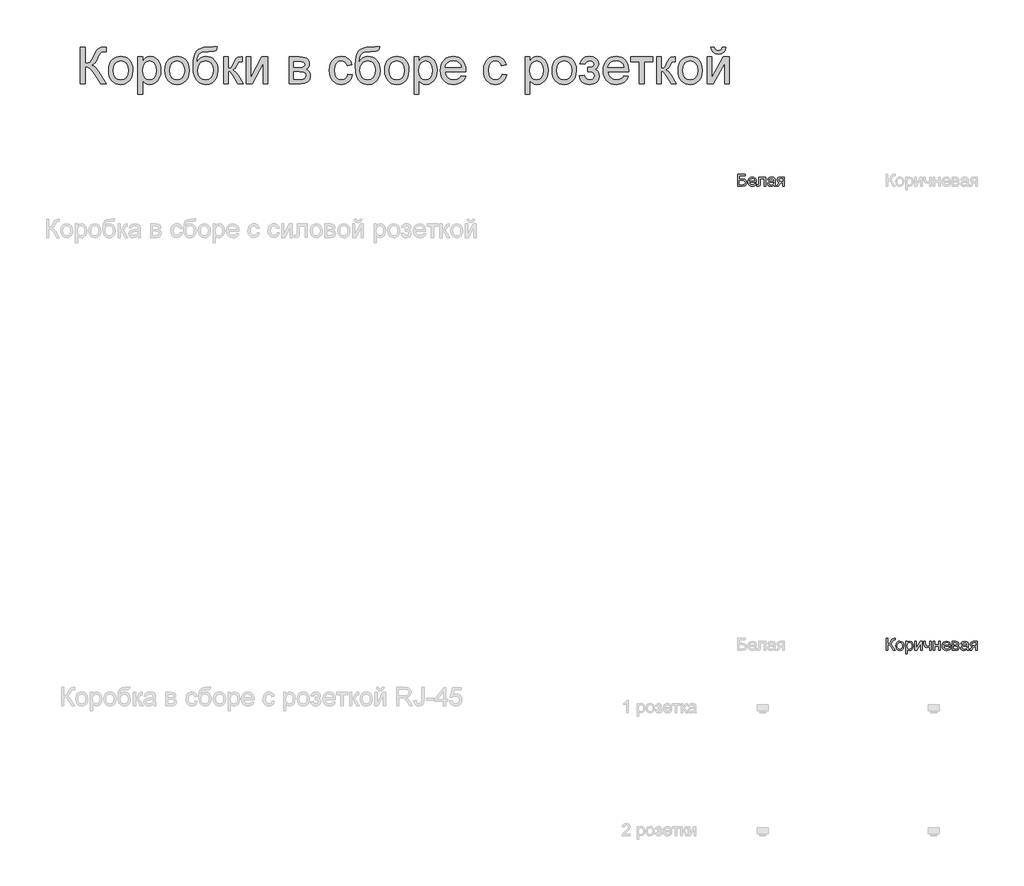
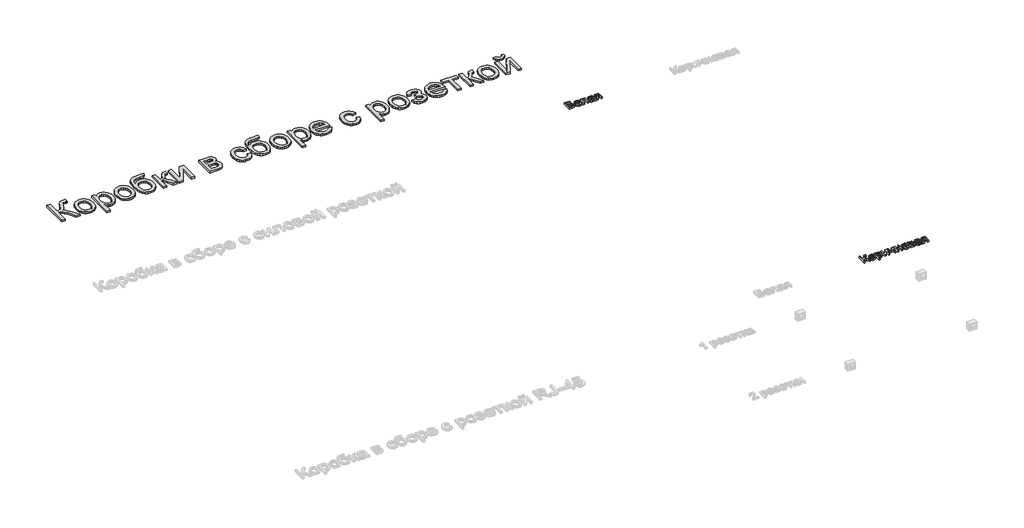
# One storey, part 43 of 48: 3 proxies.
"""IFC4 building model written with IfcOpenShell, lengths in millimetres."""

import ifcopenshell
import ifcopenshell.guid

model = None  # the IFC model being written
_history = None  # IfcOwnerHistory: only IFC2X3 demands one
_inside = {}  # id of a spatial element -> (the spatial element, [elements in it])
_under = {}  # id of a project, library or spatial element -> (it, [spatial elements below it])
_declared = {}  # id of a project -> (the project, [libraries it declares])
_typed = {}  # id of a type object -> (the type object, [elements of that type])
_made_of = {}  # id of a material, layer set ... -> (it, [elements and type objects made of it])


def new_model(schema):
    """Start an empty IFC model of exactly this schema.

    Asked for "IFC4X3", IfcOpenShell would pick the latest addendum, in which some entities
    have other attributes; the version numbers below select the first issue.
    IFC2X3 requires an IfcOwnerHistory on every rooted entity: one is made here for all.
    """
    global model, _history
    if schema == "IFC4X3":
        model = ifcopenshell.file(schema_version=(4, 3, 0, 0))
    else:
        model = ifcopenshell.file(schema=schema)
    _inside.clear()
    _under.clear()
    _declared.clear()
    _typed.clear()
    _made_of.clear()
    _history = None
    if model.schema == "IFC2X3":
        org = make("IfcOrganization", Name="unknown")
        user = make(
            "IfcPersonAndOrganization",
            ThePerson=make("IfcPerson", FamilyName="unknown"),
            TheOrganization=org,
        )
        app = make(
            "IfcApplication",
            ApplicationDeveloper=org,
            Version="unknown",
            ApplicationFullName="unknown",
            ApplicationIdentifier="unknown",
        )
        _history = make(
            "IfcOwnerHistory",
            OwningUser=user,
            OwningApplication=app,
            ChangeAction="ADDED",
            CreationDate=0,
        )
    return model


def make(cls, **values):
    """One entity of the class cls with the attributes given. An attribute that is None is left unset."""
    return model.create_entity(
        cls, **{name: value for name, value in values.items() if value is not None}
    )


def rooted(cls, **values):
    """An entity with a GlobalId (a new one), such as an element, a storey or a relation."""
    return make(cls, GlobalId=ifcopenshell.guid.new(), OwnerHistory=_history, **values)


def si_unit(unit_type, name, prefix=None):
    """IfcSIUnit, for example si_unit("LENGTHUNIT", "METRE", prefix="MILLI")."""
    return make("IfcSIUnit", UnitType=unit_type, Prefix=prefix, Name=name)


def assignment(units):
    """IfcUnitAssignment: the units of a project."""
    return None if units is None else make("IfcUnitAssignment", Units=units)


def point(xyz):
    """IfcCartesianPoint."""
    return None if xyz is None else make("IfcCartesianPoint", Coordinates=xyz)


def direction(xyz):
    """IfcDirection."""
    return None if xyz is None else make("IfcDirection", DirectionRatios=xyz)


def frame(location, z_axis=None, x_axis=None):
    """IfcAxis2Placement3D, a coordinate frame: its origin and axes. An axis left out is left unset."""
    return make(
        "IfcAxis2Placement3D",
        Location=point(location),
        Axis=direction(z_axis),
        RefDirection=direction(x_axis),
    )


def origin():
    """The frame at (0, 0, 0) with its axes left unset."""
    return frame((0.0, 0.0, 0.0))


def origin_with_axes():
    """The frame at (0, 0, 0) with the z axis (0, 0, 1) and the x axis (1, 0, 0) written out."""
    return frame((0.0, 0.0, 0.0), z_axis=(0.0, 0.0, 1.0), x_axis=(1.0, 0.0, 0.0))


def place(relative_to, where):
    """IfcLocalPlacement: puts the frame where relative to a parent placement (None: the world)."""
    return make(
        "IfcLocalPlacement", PlacementRelTo=relative_to, RelativePlacement=where
    )


def context(
    kind, dimensions, precision=None, world=None, true_north=None, identifier=None
):
    """IfcGeometricRepresentationContext, for example the 3D "Model" context."""
    return make(
        "IfcGeometricRepresentationContext",
        ContextIdentifier=identifier,
        ContextType=kind,
        CoordinateSpaceDimension=dimensions,
        Precision=precision,
        WorldCoordinateSystem=world,
        TrueNorth=true_north,
    )


def project(units=None, contexts=None):
    """IfcProject with its units and contexts."""
    return rooted(
        "IfcProject",
        Name="project",
        RepresentationContexts=contexts,
        UnitsInContext=assignment(units),
    )


def spatial(cls, under=None, at=None, **own):
    """A site, building, storey or space (cls), placed at a placement, below another one or the project."""
    s = rooted(cls, ObjectPlacement=at, **own)
    if under is not None:
        _under.setdefault(under.id(), (under, []))[1].append(s)
    return s


def polyline(points):
    """IfcPolyline through the points."""
    return make("IfcPolyline", Points=[point(p) for p in points])


def outline(outer, holes=None, kind="AREA"):
    """IfcArbitraryClosedProfileDef: a profile drawn as a closed curve; with holes, ...WithVoids."""
    if holes is None:
        return make("IfcArbitraryClosedProfileDef", ProfileType=kind, OuterCurve=outer)
    return make(
        "IfcArbitraryProfileDefWithVoids",
        ProfileType=kind,
        OuterCurve=outer,
        InnerCurves=holes,
    )


def extrude(swept, where, along, depth):
    """IfcExtrudedAreaSolid: the profile swept, set in the frame where, extruded along a direction by depth."""
    return make(
        "IfcExtrudedAreaSolid",
        SweptArea=swept,
        Position=where,
        ExtrudedDirection=direction(along),
        Depth=depth,
    )


def shape(context_of_items, identifier, shape_type, items):
    """IfcShapeRepresentation: the items that make up one representation, for example the "Body"."""
    return make(
        "IfcShapeRepresentation",
        ContextOfItems=context_of_items,
        RepresentationIdentifier=identifier,
        RepresentationType=shape_type,
        Items=items,
    )


def made_of(thing, what):
    """Note that an element or type object is made of a material, layer set ...; save() writes the relation."""
    if what is not None:
        _made_of.setdefault(what.id(), (what, []))[1].append(thing)
    return thing


def element(
    cls,
    number,
    at=None,
    inside=None,
    cuts=None,
    type_object=None,
    material=None,
    context=None,
    identifier="Body",
    shape_type=None,
    held_by="IfcProductDefinitionShape",
    body=None,
    shapes=None,
    **own,
):
    """One element of the class cls, such as IfcWall. Its Tag is "e" and its number.

    at: its placement. inside: the storey or other place that contains it. cuts: it is an
    opening in that element (IfcRelVoidsElement). A single representation is given by context,
    identifier, shape_type and body (its items); several are given by shapes. held_by: the class
    of the entity that holds the representations. save() writes the other relations.
    """
    e = rooted(cls, Tag="e%d" % number, ObjectPlacement=at, **own)
    if body is not None:
        shapes = [shape(context, identifier, shape_type, body)]
    if shapes is not None:
        e.Representation = make(held_by, Representations=shapes)
    if inside is not None:
        _inside.setdefault(inside.id(), (inside, []))[1].append(e)
    if cuts is not None:
        rooted(
            "IfcRelVoidsElement", RelatingBuildingElement=cuts, RelatedOpeningElement=e
        )
    if type_object is not None:
        _typed.setdefault(type_object.id(), (type_object, []))[1].append(e)
    return made_of(e, material)


def aggregate(whole, parts):
    """IfcRelAggregates: a whole, such as a stair, and the parts it consists of."""
    return rooted("IfcRelAggregates", RelatingObject=whole, RelatedObjects=parts)


def save(model, path):
    """Write the relations noted so far, then the file.

    IfcRelAggregates (storeys below a building ...), IfcRelContainedInSpatialStructure (elements
    in a storey), IfcRelDefinesByType, IfcRelAssociatesMaterial and IfcRelDeclares: one each for
    every whole, place, type object, material and project.
    """
    for whole, parts in _under.values():
        aggregate(whole, parts)
    for where, things in _inside.values():
        rooted(
            "IfcRelContainedInSpatialStructure",
            RelatedElements=things,
            RelatingStructure=where,
        )
    for kind, things in _typed.values():
        rooted("IfcRelDefinesByType", RelatedObjects=things, RelatingType=kind)
    for what, things in _made_of.values():
        rooted("IfcRelAssociatesMaterial", RelatedObjects=things, RelatingMaterial=what)
    for by, libraries in _declared.values():
        rooted("IfcRelDeclares", RelatingContext=by, RelatedDefinitions=libraries)
    model.write(path)


model = new_model("IFC4")

# Units and contexts
model_context = context("Model", 3, world=origin())
ifc_project = project(units=[si_unit("LENGTHUNIT", "METRE", prefix="MILLI")], contexts=[model_context])

# Site, building, storey
site = spatial("IfcSite", under=ifc_project)
building = spatial("IfcBuilding", under=site)
storey = spatial("IfcBuildingStorey", under=building, Name="Этаж 01", Elevation=0.0)

# Proxies
placement = place(None, origin())
element("IfcBuildingElementProxy", 1, Name="300 мм Arial", ObjectType="300 мм Arial", at=placement, inside=storey, context=model_context, shape_type="SweptSolid", body=[
    extrude(outline(polyline([(54142.508105, 5511.0592945), (54180.1792213, 5511.0592945), (54180.1792213, 5379.2103874), (54205.6826406, 5381.7027879), (54222.3017098, 5389.1799894), (54235.7385996, 5406.7739459), (54251.6954812, 5439.616611), (54272.4808139, 5481.7390994), (54282.5055983, 5493.1526383), (54296.0252616, 5502.5980086), (54312.0741136, 5508.943973), (54329.6864642, 5511.0592945), (54354.4081342, 5510.6178361), (54354.4081342, 5472.9467198), (54346.0940011, 5473.1674489), (54337.7798681, 5473.3881781), (54320.5262025, 5471.1257039), (54308.3493084, 5464.3382811), (54297.8646716, 5450.0828538), (54285.9820831, 5425.5635188), (54271.4047591, 5395.0293132), (54259.3106385, 5378.3274706), (54233.3013814, 5362.729274), (54247.8925011, 5356.5212653), (54262.3824531, 5345.6963376), (54291.0588547, 5310.1957251), (54354.4081342, 5209.690364), (54310.7037532, 5209.690364), (54257.1401347, 5294.5975285), (54236.4559695, 5321.8299932), (54219.4322302, 5338.9273089), (54202.0222148, 5347.9496148), (54180.1792213, 5350.9570502), (54180.1792213, 5209.690364), (54142.508105, 5209.690364), (54142.508105, 5511.0592945)])), origin_with_axes(), (0.0, 0.0, 1.0), 20.0),
    extrude(outline(polyline([(54373.2436924, 5320.3492682), (54375.2808389, 5349.0118741), (54381.3922786, 5373.7105516), (54391.5780113, 5394.4453005), (54405.8380372, 5411.216121), (54420.194632, 5421.9352826), (54436.041149, 5429.5918266), (54453.377588, 5434.185753), (54472.2039491, 5435.7170618), (54492.9869826, 5433.85236), (54511.7788547, 5428.2582544), (54528.5795656, 5418.9347451), (54543.3891152, 5405.881832), (54555.476338, 5389.5409737), (54564.1100685, 5370.3536283), (54569.2903069, 5348.3197961), (54571.017053, 5323.4394769), (54567.9636324, 5285.3820845), (54558.8033708, 5256.4113774), (54543.8029824, 5234.7155367), (54523.2291818, 5218.4827437), (54498.7926203, 5208.3567918), (54472.2039491, 5204.9814745), (54451.117413, 5206.8392785), (54432.1507969, 5212.4126908), (54415.3041007, 5221.7017111), (54400.5773246, 5234.7063397), (54388.6188605, 5251.2058472), (54380.0771004, 5270.9795044), (54374.9520444, 5294.0273114), (54373.2436924, 5320.3492682)]), holes=[polyline([(54410.9148087, 5320.4228446), (54415.2742103, 5286.3293806), (54428.3524153, 5262.0399719), (54448.034102, 5247.4994361), (54472.2039491, 5242.6525908), (54496.2634316, 5247.5270272), (54515.9083301, 5262.1503365), (54528.986535, 5286.761642), (54533.3459367, 5321.6000669), (54528.9589439, 5354.7002495), (54515.7979655, 5378.6585644), (54496.1254758, 5393.1991002), (54472.2039491, 5398.0459455), (54448.034102, 5393.2174943), (54428.3524153, 5378.7321408), (54415.2742103, 5354.4979144), (54410.9148087, 5320.4228446)])]), origin_with_axes(), (0.0, 0.0, 1.0), 20.0),
    extrude(outline(polyline([(54613.3970588, 5124.9303523), (54613.3970588, 5431.0081723), (54651.0681751, 5431.0081723), (54651.0681751, 5394.07282), (54663.3554338, 5412.2921758), (54677.1142204, 5425.3060014), (54693.1538754, 5433.1142967), (54712.2837391, 5435.7170618), (54737.7595673, 5432.0750301), (54760.0348221, 5421.1489348), (54778.1714045, 5403.6009637), (54791.2312153, 5380.0933042), (54799.1222841, 5352.3366076), (54801.7526404, 5322.0415253), (54798.7819933, 5289.8242596), (54789.8700519, 5261.0099023), (54775.3019249, 5237.0607844), (54755.3627208, 5219.4392369), (54732.1401698, 5208.5959151), (54707.7220024, 5204.9814745), (54690.4039575, 5207.4002986), (54674.9437166, 5214.6567709), (54661.7091619, 5225.6104573), (54651.0681751, 5239.1209236), (54651.0681751, 5124.9303523), (54613.3970588, 5124.9303523)]), holes=[polyline([(54651.0681751, 5318.5834346), (54655.1424682, 5284.8118674), (54667.3653475, 5261.1938433), (54685.4007623, 5247.2879039), (54706.912662, 5242.6525908), (54728.7740496, 5247.4534508), (54747.2693169, 5261.8560309), (54759.8784723, 5286.3385777), (54764.0815241, 5321.3793377), (54759.9796398, 5354.9669639), (54747.6739871, 5378.9160818), (54729.6661634, 5393.2634796), (54708.4577664, 5398.0459455), (54687.1665959, 5392.959977), (54668.4689935, 5377.7020712), (54655.4183797, 5352.7504749), (54651.0681751, 5318.5834346)])]), origin_with_axes(), (0.0, 0.0, 1.0), 20.0),
    extrude(outline(polyline([(54834.7148671, 5320.3492682), (54836.7520137, 5349.0118741), (54842.8634533, 5373.7105516), (54853.0491861, 5394.4453005), (54867.3092119, 5411.216121), (54881.6658068, 5421.9352826), (54897.5123237, 5429.5918266), (54914.8487627, 5434.185753), (54933.6751238, 5435.7170618), (54954.4581573, 5433.85236), (54973.2500295, 5428.2582544), (54990.0507403, 5418.9347451), (55004.8602899, 5405.881832), (55016.9475127, 5389.5409737), (55025.5812433, 5370.3536283), (55030.7614816, 5348.3197961), (55032.4882277, 5323.4394769), (55029.4348072, 5285.3820845), (55020.2745455, 5256.4113774), (55005.2741572, 5234.7155367), (54984.7003566, 5218.4827437), (54960.263795, 5208.3567918), (54933.6751238, 5204.9814745), (54912.5885877, 5206.8392785), (54893.6219716, 5212.4126908), (54876.7752755, 5221.7017111), (54862.0484994, 5234.7063397), (54850.0900353, 5251.2058472), (54841.5482752, 5270.9795044), (54836.4232192, 5294.0273114), (54834.7148671, 5320.3492682)]), holes=[polyline([(54872.3859834, 5320.4228446), (54876.7453851, 5286.3293806), (54889.82359, 5262.0399719), (54909.5052768, 5247.4994361), (54933.6751238, 5242.6525908), (54957.7346063, 5247.5270272), (54977.3795049, 5262.1503365), (54990.4577098, 5286.761642), (54994.8171114, 5321.6000669), (54990.4301186, 5354.7002495), (54977.2691403, 5378.6585644), (54957.5966506, 5393.1991002), (54933.6751238, 5398.0459455), (54909.5052768, 5393.2174943), (54889.82359, 5378.7321408), (54876.7453851, 5354.4979144), (54872.3859834, 5320.4228446)])]), origin_with_axes(), (0.0, 0.0, 1.0), 20.0),
    extrude(outline(polyline([(55230.2615884, 5515.768184), (55263.2238151, 5515.768184), (55259.6553598, 5497.8615279), (55253.5117304, 5486.3744126), (55244.9952623, 5479.5777927), (55234.3082903, 5475.7426229), (55188.1758881, 5473.3881781), (55149.8701754, 5471.2176744), (55126.0406191, 5464.7061631), (55111.7851918, 5453.4121858), (55102.2018658, 5436.8942842), (55096.5640743, 5415.0236996), (55094.1452501, 5387.6716733), (55109.2927913, 5408.7145234), (55126.7763831, 5423.7241088), (55146.6144197, 5432.7188236), (55168.8252952, 5435.7170618), (55189.348512, 5433.8109733), (55208.0231217, 5428.0927075), (55224.8491245, 5418.5622646), (55239.8265202, 5405.2196444), (55252.1229759, 5388.6258672), (55260.9061586, 5369.3419529), (55266.1760681, 5347.3679014), (55267.9327047, 5322.7037129), (55264.4470228, 5286.7432479), (55253.989977, 5257.8829054), (55238.7504654, 5235.4513007), (55220.9173857, 5218.7770493), (55198.3294312, 5208.4303682), (55168.8252952, 5204.9814745), (55134.8238018, 5209.4236496), (55109.3387765, 5222.7501748), (55090.5859918, 5243.0020787), (55076.78122, 5268.2203894), (55068.2831459, 5306.1950084), (55065.4504545, 5364.7158368), (55067.2369815, 5404.3804136), (55072.5965623, 5436.9954518), (55081.529197, 5462.5609512), (55094.0348855, 5481.0769118), (55110.2469852, 5494.1942042), (55130.2988532, 5503.5636988), (55154.1904895, 5509.1853955), (55181.9218942, 5511.0592945), (55223.8604416, 5511.905423), (55230.2615884, 5515.768184)]), holes=[polyline([(55230.2615884, 5323.8809353), (55226.1780982, 5353.5230271), (55213.9276278, 5377.2606128), (55194.245941, 5392.8496124), (55167.868802, 5398.0459455), (55140.3696228, 5392.5553068), (55129.2825792, 5385.6920083), (55119.9705662, 5376.0833904), (55107.3338197, 5350.4328183), (55103.1215708, 5317.4062122), (55107.7752781, 5285.3912816), (55121.7363998, 5261.8928191), (55142.5217325, 5247.4626479), (55167.6480728, 5242.6525908), (55192.9031717, 5248.2168059), (55212.8975582, 5264.9094515), (55225.9205808, 5290.7807528), (55230.2615884, 5323.8809353)])]), origin_with_axes(), (0.0, 0.0, 1.0), 20.0),
    extrude(outline(polyline([(55315.0216, 5431.0081723), (55352.6927163, 5431.0081723), (55352.6927163, 5336.8303815), (55368.0150014, 5338.5226387), (55377.9294212, 5343.5994102), (55386.7034068, 5356.8431621), (55398.6043893, 5383.0363601), (55415.7844785, 5417.0654447), (55430.9412167, 5428.1386927), (55458.4955782, 5431.0081723), (55465.7060653, 5431.0081723), (55465.7060653, 5393.1163268), (55455.5525222, 5393.337056), (55437.1584224, 5389.3639304), (55424.2089762, 5364.568684), (55409.0154498, 5337.7500865), (55387.7150823, 5324.6166993), (55399.652853, 5319.3146), (55411.4802592, 5309.9566018), (55434.8039777, 5279.0729083), (55475.1238443, 5209.690364), (55432.3023801, 5209.690364), (55392.7918538, 5277.6013803), (55372.9262261, 5306.3329641), (55363.6372057, 5311.5476914), (55352.6927163, 5313.2859338), (55352.6927163, 5209.690364), (55315.0216, 5209.690364), (55315.0216, 5431.0081723)])), origin_with_axes(), (0.0, 0.0, 1.0), 20.0),
    extrude(outline(polyline([(55498.668292, 5431.0081723), (55536.3394083, 5431.0081723), (55536.3394083, 5262.2239129), (55628.8985183, 5431.0081723), (55677.6060945, 5431.0081723), (55677.6060945, 5209.690364), (55639.9349782, 5209.690364), (55639.9349782, 5377.4445538), (55547.9644794, 5209.690364), (55498.668292, 5209.690364), (55498.668292, 5431.0081723)])), origin_with_axes(), (0.0, 0.0, 1.0), 20.0),
    extrude(outline(polyline([(55851.8350074, 5431.0081723), (55934.8291855, 5431.0081723), (55961.5098272, 5429.7481765), (55980.3361883, 5425.968189), (55994.1869454, 5418.8312783), (56005.9407752, 5407.5005128), (56013.9697997, 5392.7392478), (56016.6461412, 5375.3108382), (56015.0274605, 5361.2669431), (56010.1714181, 5349.1544284), (56002.0596201, 5338.9181119), (55990.6736724, 5330.5028112), (56004.6164, 5322.6761218), (56015.9839537, 5310.0853605), (56023.5439287, 5293.7238088), (56026.0639203, 5274.584748), (56019.6811677, 5245.8715582), (56004.5060354, 5225.6564426), (55980.4833411, 5213.6818837), (55947.5579025, 5209.690364), (55851.8350074, 5209.690364), (55851.8350074, 5431.0081723)]), holes=[polyline([(55889.5061237, 5346.2481606), (55926.7357816, 5346.2481606), (55957.4539282, 5348.161147), (55972.3899372, 5355.8130925), (55977.328753, 5362.1406628), (55978.9750249, 5369.6454555), (55976.0871513, 5380.8842505), (55967.4235303, 5388.1131317), (55951.7701514, 5392.0310749), (55927.913004, 5393.337056), (55889.5061237, 5393.337056), (55889.5061237, 5346.2481606)]), polyline([(55889.5061237, 5247.3614803), (55935.7121023, 5247.3614803), (55960.8936249, 5249.0629345), (55976.6941566, 5254.1672972), (55985.1738366, 5263.4471205), (55988.392804, 5277.6749567), (55986.7833203, 5287.1019328), (55981.9548691, 5295.8115391), (55974.5420469, 5302.626553), (55965.1794501, 5306.3697523), (55932.0332824, 5308.5770443), (55889.5061237, 5308.5770443), (55889.5061237, 5247.3614803)])]), origin_with_axes(), (0.0, 0.0, 1.0), 20.0),
    extrude(outline(polyline([(56332.1417403, 5289.7414862), (56369.8128566, 5285.0325966), (56359.3098257, 5251.5277439), (56339.5729566, 5226.2082656), (56312.4600536, 5210.2881722), (56279.8289206, 5204.9814745), (56258.7009978, 5206.8323808), (56239.7573743, 5212.3850996), (56222.9980501, 5221.6396311), (56208.4230253, 5234.5959751), (56196.6255096, 5251.0104098), (56188.1987126, 5270.6392136), (56183.1426345, 5293.4823862), (56181.4572751, 5319.5399278), (56184.3359517, 5353.0631746), (56192.9719815, 5382.1166551), (56207.5033203, 5405.5783294), (56228.0679239, 5422.3261572), (56252.6700323, 5432.3693357), (56279.3138858, 5435.7170618), (56311.1448754, 5431.1185369), (56336.5931124, 5417.3229621), (56354.8492565, 5395.0661014), (56365.1039671, 5365.0837188), (56327.4328508, 5360.3748292), (56320.5994427, 5376.8099574), (56309.958456, 5388.5913783), (56296.0985018, 5395.6823037), (56279.6081914, 5398.0459455), (56255.2636004, 5393.3922383), (56235.9405986, 5379.4311166), (56223.3314432, 5355.4084223), (56219.1283914, 5320.5699973), (56223.2394727, 5285.2625229), (56235.5727166, 5261.1570551), (56254.5462305, 5247.2787069), (56278.5781218, 5242.6525908), (56298.0850646, 5245.5404644), (56314.0787343, 5254.2040854), (56325.7130024, 5268.8641829), (56332.1417403, 5289.7414862)])), origin_with_axes(), (0.0, 0.0, 1.0), 20.0),
    extrude(outline(polyline([(56558.1684381, 5515.768184), (56591.1306649, 5515.768184), (56587.5622096, 5497.8615279), (56581.4185802, 5486.3744126), (56572.902112, 5479.5777927), (56562.2151401, 5475.7426229), (56516.0827379, 5473.3881781), (56477.7770251, 5471.2176744), (56453.9474689, 5464.7061631), (56439.6920416, 5453.4121858), (56430.1087156, 5436.8942842), (56424.470924, 5415.0236996), (56422.0520999, 5387.6716733), (56437.1996411, 5408.7145234), (56454.6832329, 5423.7241088), (56474.5212695, 5432.7188236), (56496.7321449, 5435.7170618), (56517.2553618, 5433.8109733), (56535.9299715, 5428.0927075), (56552.7559743, 5418.5622646), (56567.73337, 5405.2196444), (56580.0298257, 5388.6258672), (56588.8130083, 5369.3419529), (56594.0829179, 5347.3679014), (56595.8395544, 5322.7037129), (56592.3538725, 5286.7432479), (56581.8968268, 5257.8829054), (56566.6573152, 5235.4513007), (56548.8242355, 5218.7770493), (56526.236281, 5208.4303682), (56496.7321449, 5204.9814745), (56462.7306515, 5209.4236496), (56437.2456263, 5222.7501748), (56418.4928416, 5243.0020787), (56404.6880698, 5268.2203894), (56396.1899957, 5306.1950084), (56393.3573043, 5364.7158368), (56395.1438312, 5404.3804136), (56400.5034121, 5436.9954518), (56409.4360468, 5462.5609512), (56421.9417353, 5481.0769118), (56438.153835, 5494.1942042), (56458.205703, 5503.5636988), (56482.0973393, 5509.1853955), (56509.828744, 5511.0592945), (56551.7672914, 5511.905423), (56558.1684381, 5515.768184)]), holes=[polyline([(56558.1684381, 5323.8809353), (56554.084948, 5353.5230271), (56541.8344776, 5377.2606128), (56522.1527908, 5392.8496124), (56495.7756518, 5398.0459455), (56468.2764726, 5392.5553068), (56457.189429, 5385.6920083), (56447.877416, 5376.0833904), (56435.2406695, 5350.4328183), (56431.0284206, 5317.4062122), (56435.6821278, 5285.3912816), (56449.6432496, 5261.8928191), (56470.4285823, 5247.4626479), (56495.5549226, 5242.6525908), (56520.8100215, 5248.2168059), (56540.804408, 5264.9094515), (56553.8274306, 5290.7807528), (56558.1684381, 5323.8809353)])]), origin_with_axes(), (0.0, 0.0, 1.0), 20.0),
    extrude(outline(polyline([(56633.5106708, 5320.3492682), (56635.5478173, 5349.0118741), (56641.6592569, 5373.7105516), (56651.8449897, 5394.4453005), (56666.1050155, 5411.216121), (56680.4616104, 5421.9352826), (56696.3081273, 5429.5918266), (56713.6445664, 5434.185753), (56732.4709275, 5435.7170618), (56753.2539609, 5433.85236), (56772.0458331, 5428.2582544), (56788.846544, 5418.9347451), (56803.6560935, 5405.881832), (56815.7433163, 5389.5409737), (56824.3770469, 5370.3536283), (56829.5572852, 5348.3197961), (56831.2840314, 5323.4394769), (56828.2306108, 5285.3820845), (56819.0703491, 5256.4113774), (56804.0699608, 5234.7155367), (56783.4961602, 5218.4827437), (56759.0595987, 5208.3567918), (56732.4709275, 5204.9814745), (56711.3843913, 5206.8392785), (56692.4177752, 5212.4126908), (56675.5710791, 5221.7017111), (56660.844303, 5234.7063397), (56648.8858389, 5251.2058472), (56640.3440788, 5270.9795044), (56635.2190228, 5294.0273114), (56633.5106708, 5320.3492682)]), holes=[polyline([(56671.1817871, 5320.4228446), (56675.5411887, 5286.3293806), (56688.6193936, 5262.0399719), (56708.3010804, 5247.4994361), (56732.4709275, 5242.6525908), (56756.5304099, 5247.5270272), (56776.1753085, 5262.1503365), (56789.2535134, 5286.761642), (56793.6129151, 5321.6000669), (56789.2259223, 5354.7002495), (56776.0649439, 5378.6585644), (56756.3924542, 5393.1991002), (56732.4709275, 5398.0459455), (56708.3010804, 5393.2174943), (56688.6193936, 5378.7321408), (56675.5411887, 5354.4979144), (56671.1817871, 5320.4228446)])]), origin_with_axes(), (0.0, 0.0, 1.0), 20.0),
    extrude(outline(polyline([(56873.6640372, 5124.9303523), (56873.6640372, 5431.0081723), (56911.3351535, 5431.0081723), (56911.3351535, 5394.07282), (56923.6224122, 5412.2921758), (56937.3811988, 5425.3060014), (56953.4208538, 5433.1142967), (56972.5507175, 5435.7170618), (56998.0265457, 5432.0750301), (57020.3018005, 5421.1489348), (57038.4383828, 5403.6009637), (57051.4981937, 5380.0933042), (57059.3892625, 5352.3366076), (57062.0196187, 5322.0415253), (57059.0489716, 5289.8242596), (57050.1370303, 5261.0099023), (57035.5689033, 5237.0607844), (57015.6296991, 5219.4392369), (56992.4071482, 5208.5959151), (56967.9889808, 5204.9814745), (56950.6709358, 5207.4002986), (56935.210695, 5214.6567709), (56921.9761402, 5225.6104573), (56911.3351535, 5239.1209236), (56911.3351535, 5124.9303523), (56873.6640372, 5124.9303523)]), holes=[polyline([(56911.3351535, 5318.5834346), (56915.4094466, 5284.8118674), (56927.6323259, 5261.1938433), (56945.6677407, 5247.2879039), (56967.1796404, 5242.6525908), (56989.0410279, 5247.4534508), (57007.5362953, 5261.8560309), (57020.1454506, 5286.3385777), (57024.3485024, 5321.3793377), (57020.2466182, 5354.9669639), (57007.9409654, 5378.9160818), (56989.9331418, 5393.2634796), (56968.7247448, 5398.0459455), (56947.4335743, 5392.959977), (56928.7359719, 5377.7020712), (56915.6853581, 5352.7504749), (56911.3351535, 5318.5834346)])]), origin_with_axes(), (0.0, 0.0, 1.0), 20.0),
    extrude(outline(polyline([(57259.3515209, 5275.6148175), (57296.2868733, 5270.905928), (57282.9787421, 5243.0756551), (57261.7427539, 5222.2719282), (57233.0571553, 5209.3040879), (57197.400193, 5204.9814745), (57174.0258907, 5206.8461763), (57153.1991712, 5212.4402819), (57134.9200346, 5221.7637912), (57119.1884808, 5234.8167043), (57106.5379387, 5251.2357376), (57097.5018372, 5270.6576077), (57092.0801763, 5293.0823145), (57090.272956, 5318.5098582), (57092.0985704, 5344.7996253), (57097.5754136, 5367.9715924), (57106.7034856, 5388.0257597), (57119.4827864, 5404.962127), (57135.1729535, 5418.417411), (57153.0336243, 5428.0283281), (57173.064799, 5433.7948784), (57195.2664774, 5435.7170618), (57216.7530852, 5433.7994769), (57236.1841523, 5428.0467222), (57253.5596788, 5418.4587977), (57268.8796646, 5405.0357034), (57281.3853532, 5388.1361243), (57290.3179879, 5368.1187452), (57295.6775687, 5344.9835663), (57297.4640957, 5318.7305874), (57297.2433665, 5308.5770443), (57127.9440723, 5308.5770443), (57134.4647806, 5280.3788894), (57149.6123218, 5259.6487389), (57171.4737094, 5246.9016278), (57198.135957, 5242.6525908), (57218.1855257, 5244.6207594), (57235.0713093, 5250.5252655), (57248.7933077, 5260.7339908), (57259.3515209, 5275.6148175)]), holes=[polyline([(57127.9440723, 5346.2481606), (57259.7929793, 5346.2481606), (57254.6978137, 5366.1505766), (57244.7098175, 5380.3876098), (57222.7472624, 5393.6313616), (57195.1193246, 5398.0459455), (57169.7262699, 5394.5234754), (57148.729405, 5383.9560651), (57134.1336868, 5367.4841488), (57127.9440723, 5346.2481606)])]), origin_with_axes(), (0.0, 0.0, 1.0), 20.0),
    extrude(outline(polyline([(57594.1241366, 5289.7414862), (57631.7952529, 5285.0325966), (57621.2922219, 5251.5277439), (57601.5553529, 5226.2082656), (57574.4424498, 5210.2881722), (57541.8113168, 5204.9814745), (57520.683394, 5206.8323808), (57501.7397705, 5212.3850996), (57484.9804464, 5221.6396311), (57470.4054216, 5234.5959751), (57458.6079058, 5251.0104098), (57450.1811089, 5270.6392136), (57445.1250307, 5293.4823862), (57443.4396713, 5319.5399278), (57446.3183479, 5353.0631746), (57454.9543778, 5382.1166551), (57469.4857166, 5405.5783294), (57490.0503201, 5422.3261572), (57514.6524286, 5432.3693357), (57541.2962821, 5435.7170618), (57573.1272717, 5431.1185369), (57598.5755087, 5417.3229621), (57616.8316527, 5395.0661014), (57627.0863633, 5365.0837188), (57589.415247, 5360.3748292), (57582.581839, 5376.8099574), (57571.9408523, 5388.5913783), (57558.0808981, 5395.6823037), (57541.5905876, 5398.0459455), (57517.2459966, 5393.3922383), (57497.9229948, 5379.4311166), (57485.3138394, 5355.4084223), (57481.1107876, 5320.5699973), (57485.2218689, 5285.2625229), (57497.5551128, 5261.1570551), (57516.5286267, 5247.2787069), (57540.5605181, 5242.6525908), (57560.0674609, 5245.5404644), (57576.0611306, 5254.2040854), (57587.6953987, 5268.8641829), (57594.1241366, 5289.7414862)])), origin_with_axes(), (0.0, 0.0, 1.0), 20.0),
    extrude(outline(polyline([(57782.4797181, 5124.9303523), (57782.4797181, 5431.0081723), (57820.1508344, 5431.0081723), (57820.1508344, 5394.07282), (57832.438093, 5412.2921758), (57846.1968797, 5425.3060014), (57862.2365346, 5433.1142967), (57881.3663984, 5435.7170618), (57906.8422266, 5432.0750301), (57929.1174814, 5421.1489348), (57947.2540637, 5403.6009637), (57960.3138746, 5380.0933042), (57968.2049434, 5352.3366076), (57970.8352996, 5322.0415253), (57967.8646525, 5289.8242596), (57958.9527112, 5261.0099023), (57944.3845842, 5237.0607844), (57924.44538, 5219.4392369), (57901.2228291, 5208.5959151), (57876.8046617, 5204.9814745), (57859.4866167, 5207.4002986), (57844.0263759, 5214.6567709), (57830.7918211, 5225.6104573), (57820.1508344, 5239.1209236), (57820.1508344, 5124.9303523), (57782.4797181, 5124.9303523)]), holes=[polyline([(57820.1508344, 5318.5834346), (57824.2251275, 5284.8118674), (57836.4480068, 5261.1938433), (57854.4834216, 5247.2879039), (57875.9953213, 5242.6525908), (57897.8567088, 5247.4534508), (57916.3519761, 5261.8560309), (57928.9611315, 5286.3385777), (57933.1641833, 5321.3793377), (57929.0622991, 5354.9669639), (57916.7566463, 5378.9160818), (57898.7488227, 5393.2634796), (57877.5404256, 5398.0459455), (57856.2492552, 5392.959977), (57837.5516528, 5377.7020712), (57824.501039, 5352.7504749), (57820.1508344, 5318.5834346)])]), origin_with_axes(), (0.0, 0.0, 1.0), 20.0),
    extrude(outline(polyline([(58003.7975264, 5320.3492682), (58005.8346729, 5349.0118741), (58011.9461126, 5373.7105516), (58022.1318453, 5394.4453005), (58036.3918712, 5411.216121), (58050.748466, 5421.9352826), (58066.594983, 5429.5918266), (58083.931422, 5434.185753), (58102.7577831, 5435.7170618), (58123.5408166, 5433.85236), (58142.3326887, 5428.2582544), (58159.1333996, 5418.9347451), (58173.9429492, 5405.881832), (58186.030172, 5389.5409737), (58194.6639025, 5370.3536283), (58199.8441409, 5348.3197961), (58201.570887, 5323.4394769), (58198.5174664, 5285.3820845), (58189.3572048, 5256.4113774), (58174.3568164, 5234.7155367), (58153.7830158, 5218.4827437), (58129.3464543, 5208.3567918), (58102.7577831, 5204.9814745), (58081.671247, 5206.8392785), (58062.7046309, 5212.4126908), (58045.8579348, 5221.7017111), (58031.1311586, 5234.7063397), (58019.1726945, 5251.2058472), (58010.6309344, 5270.9795044), (58005.5058784, 5294.0273114), (58003.7975264, 5320.3492682)]), holes=[polyline([(58041.4686427, 5320.4228446), (58045.8280443, 5286.3293806), (58058.9062493, 5262.0399719), (58078.587936, 5247.4994361), (58102.7577831, 5242.6525908), (58126.8172656, 5247.5270272), (58146.4621641, 5262.1503365), (58159.540369, 5286.761642), (58163.8997707, 5321.6000669), (58159.5127779, 5354.7002495), (58146.3517995, 5378.6585644), (58126.6793098, 5393.1991002), (58102.7577831, 5398.0459455), (58078.587936, 5393.2174943), (58058.9062493, 5378.7321408), (58045.8280443, 5354.4979144), (58041.4686427, 5320.4228446)])]), origin_with_axes(), (0.0, 0.0, 1.0), 20.0),
    extrude(outline(polyline([(58295.7486778, 5308.5770443), (58295.7486778, 5346.2481606), (58325.473543, 5347.7196886), (58340.4831284, 5355.5555751), (58345.7806291, 5362.9040179), (58347.5464627, 5371.9263239), (58345.1828209, 5382.640887), (58338.0918954, 5390.945823), (58327.2669677, 5396.2709149), (58313.7013191, 5398.0459455), (58299.9885178, 5396.280112), (58288.5014025, 5390.9826112), (58279.2399732, 5382.1534433), (58272.2042301, 5369.7926083), (58229.8242242, 5374.5014978), (58241.0630192, 5401.2833071), (58258.1511379, 5420.4131708), (58281.0885803, 5431.8910891), (58309.8753464, 5435.7170618), (58341.3660452, 5431.0541576), (58365.2047985, 5417.0654447), (58380.2143839, 5396.6020087), (58385.217579, 5372.5149351), (58383.4379498, 5360.1541), (58378.0990624, 5349.1176402), (58369.2009166, 5339.4055555), (58356.7435126, 5331.017846), (58371.2840484, 5320.5516032), (58381.6491236, 5307.5469747), (58387.8571323, 5291.9671722), (58389.9264685, 5273.7754076), (58384.674953, 5246.0463022), (58368.9204066, 5224.07455), (58343.729687, 5209.7547434), (58310.169652, 5204.9814745), (58277.345381, 5209.3960584), (58252.2282377, 5222.6398102), (58234.8182223, 5244.7127299), (58225.1153347, 5275.6148175), (58267.4953405, 5280.3237071), (58273.8413049, 5264.3944167), (58284.4914887, 5252.5118282), (58298.2134871, 5245.1174001), (58313.7748955, 5242.6525908), (58328.9316337, 5245.0162326), (58341.2924688, 5252.107158), (58349.5146314, 5262.8769035), (58352.2553522, 5276.2770051), (58350.553898, 5286.8904007), (58345.4495353, 5296.0690565), (58330.9549847, 5306.6640579), (58303.1063177, 5308.7977735), (58295.7486778, 5308.5770443)])), origin_with_axes(), (0.0, 0.0, 1.0), 20.0),
    extrude(outline(polyline([(58591.9672603, 5275.6148175), (58628.9026126, 5270.905928), (58615.5944814, 5243.0756551), (58594.3584932, 5222.2719282), (58565.6728947, 5209.3040879), (58530.0159323, 5204.9814745), (58506.64163, 5206.8461763), (58485.8149106, 5212.4402819), (58467.5357739, 5221.7637912), (58451.8042201, 5234.8167043), (58439.153678, 5251.2357376), (58430.1175765, 5270.6576077), (58424.6959156, 5293.0823145), (58422.8886953, 5318.5098582), (58424.7143097, 5344.7996253), (58430.1911529, 5367.9715924), (58439.3192249, 5388.0257597), (58452.0985257, 5404.962127), (58467.7886928, 5418.417411), (58485.6493637, 5428.0283281), (58505.6805383, 5433.7948784), (58527.8822167, 5435.7170618), (58549.3688245, 5433.7994769), (58568.7998916, 5428.0467222), (58586.1754181, 5418.4587977), (58601.495404, 5405.0357034), (58614.0010925, 5388.1361243), (58622.9337272, 5368.1187452), (58628.293308, 5344.9835663), (58630.079835, 5318.7305874), (58629.8591058, 5308.5770443), (58460.5598116, 5308.5770443), (58467.08052, 5280.3788894), (58482.2280611, 5259.6487389), (58504.0894487, 5246.9016278), (58530.7516963, 5242.6525908), (58550.801265, 5244.6207594), (58567.6870486, 5250.5252655), (58581.409047, 5260.7339908), (58591.9672603, 5275.6148175)]), holes=[polyline([(58460.5598116, 5346.2481606), (58592.4087187, 5346.2481606), (58587.313553, 5366.1505766), (58577.3255569, 5380.3876098), (58555.3630018, 5393.6313616), (58527.7350639, 5398.0459455), (58502.3420092, 5394.5234754), (58481.3451443, 5383.9560651), (58466.7494262, 5367.4841488), (58460.5598116, 5346.2481606)])]), origin_with_axes(), (0.0, 0.0, 1.0), 20.0),
    extrude(outline(polyline([(58648.9153931, 5431.0081723), (58827.8531956, 5431.0081723), (58827.8531956, 5393.337056), (58757.2198525, 5393.337056), (58757.2198525, 5209.690364), (58719.5487362, 5209.690364), (58719.5487362, 5393.337056), (58648.9153931, 5393.337056), (58648.9153931, 5431.0081723)])), origin_with_axes(), (0.0, 0.0, 1.0), 20.0),
    extrude(outline(polyline([(58860.8154224, 5431.0081723), (58898.4865387, 5431.0081723), (58898.4865387, 5336.8303815), (58913.8088238, 5338.5226387), (58923.7232435, 5343.5994102), (58932.4972291, 5356.8431621), (58944.3982117, 5383.0363601), (58961.5783008, 5417.0654447), (58976.735039, 5428.1386927), (59004.2894005, 5431.0081723), (59011.4998876, 5431.0081723), (59011.4998876, 5393.1163268), (59001.3463445, 5393.337056), (58982.9522448, 5389.3639304), (58970.0027985, 5364.568684), (58954.8092721, 5337.7500865), (58933.5089046, 5324.6166993), (58945.4466753, 5319.3146), (58957.2740815, 5309.9566018), (58980.5978, 5279.0729083), (59020.9176667, 5209.690364), (58978.0962024, 5209.690364), (58938.5856761, 5277.6013803), (58918.7200484, 5306.3329641), (58909.431028, 5311.5476914), (58898.4865387, 5313.2859338), (58898.4865387, 5209.690364), (58860.8154224, 5209.690364), (58860.8154224, 5431.0081723)])), origin_with_axes(), (0.0, 0.0, 1.0), 20.0),
    extrude(outline(polyline([(59035.0443353, 5320.3492682), (59037.0814818, 5349.0118741), (59043.1929215, 5373.7105516), (59053.3786542, 5394.4453005), (59067.63868, 5411.216121), (59081.9952749, 5421.9352826), (59097.8417918, 5429.5918266), (59115.1782309, 5434.185753), (59134.004592, 5435.7170618), (59154.7876254, 5433.85236), (59173.5794976, 5428.2582544), (59190.3802085, 5418.9347451), (59205.189758, 5405.881832), (59217.2769808, 5389.5409737), (59225.9107114, 5370.3536283), (59231.0909498, 5348.3197961), (59232.8176959, 5323.4394769), (59229.7642753, 5285.3820845), (59220.6040136, 5256.4113774), (59205.6036253, 5234.7155367), (59185.0298247, 5218.4827437), (59160.5932632, 5208.3567918), (59134.004592, 5204.9814745), (59112.9180559, 5206.8392785), (59093.9514397, 5212.4126908), (59077.1047436, 5221.7017111), (59062.3779675, 5234.7063397), (59050.4195034, 5251.2058472), (59041.8777433, 5270.9795044), (59036.7526873, 5294.0273114), (59035.0443353, 5320.3492682)]), holes=[polyline([(59072.7154516, 5320.4228446), (59077.0748532, 5286.3293806), (59090.1530581, 5262.0399719), (59109.8347449, 5247.4994361), (59134.004592, 5242.6525908), (59158.0640745, 5247.5270272), (59177.708973, 5262.1503365), (59190.7871779, 5286.761642), (59195.1465796, 5321.6000669), (59190.7595868, 5354.7002495), (59177.5986084, 5378.6585644), (59157.9261187, 5393.1991002), (59134.004592, 5398.0459455), (59109.8347449, 5393.2174943), (59090.1530581, 5378.7321408), (59077.0748532, 5354.4979144), (59072.7154516, 5320.4228446)])]), origin_with_axes(), (0.0, 0.0, 1.0), 20.0),
    extrude(outline(polyline([(59275.1977017, 5431.0081723), (59312.868818, 5431.0081723), (59312.868818, 5262.2239129), (59405.427928, 5431.0081723), (59454.1355042, 5431.0081723), (59454.1355042, 5209.690364), (59416.4643879, 5209.690364), (59416.4643879, 5377.4445538), (59324.4938891, 5209.690364), (59275.1977017, 5209.690364), (59275.1977017, 5431.0081723)])), origin_with_axes(), (0.0, 0.0, 1.0), 20.0),
    extrude(outline(polyline([(59397.6288297, 5511.0592945), (59425.8821669, 5511.0592945), (59419.802917, 5486.9354326), (59407.5984318, 5469.1575352), (59389.8205344, 5458.2038488), (59367.0210477, 5454.55262), (59342.2809835, 5458.1762576), (59323.0959375, 5469.0471706), (59309.9809444, 5486.7974769), (59303.451039, 5511.0592945), (59331.7043762, 5511.0592945), (59335.6775017, 5498.6524742), (59342.2993776, 5489.8325033), (59351.6067921, 5484.5625937), (59363.6365334, 5482.8059572), (59377.211379, 5484.5074115), (59387.0338283, 5489.6117741), (59393.6557042, 5498.3765627), (59397.6288297, 5511.0592945)])), origin_with_axes(), (0.0, 0.0, 1.0), 20.0),
])
element("IfcBuildingElementProxy", 2, Name="100 мм Arial", ObjectType="100 мм Arial", at=placement, inside=storey, context=model_context, shape_type="SweptSolid", body=[
    extrude(outline(polyline([(60740.6797795, 672.3314949), (60753.2368182, 672.3314949), (60753.2368182, 628.3818593), (60767.2776477, 631.7050599), (60777.0755715, 648.5172671), (60784.0040158, 662.5580966), (60791.852165, 669.5110663), (60803.0725658, 672.3314949), (60811.3131225, 672.1843421), (60811.3131225, 659.6273034), (60808.5417448, 659.7008798), (60805.7703671, 659.7744562), (60795.9601806, 656.7578238), (60788.5044388, 643.8329031), (60779.6139573, 628.0875537), (60770.9442049, 622.8881548), (60780.6378955, 617.2105093), (60790.196696, 605.3769718), (60811.3131225, 571.8751848), (60796.7449955, 571.8751848), (60778.890456, 600.177573), (60766.3211545, 614.9541664), (60753.2368182, 618.9640802), (60753.2368182, 571.8751848), (60740.6797795, 571.8751848), (60740.6797795, 672.3314949)])), origin_with_axes(), (0.0, 0.0, 1.0), 20.0),
    extrude(outline(polyline([(60817.5916419, 608.7614862), (60820.3078373, 626.5485806), (60828.4564235, 639.0504371), (60838.5241274, 645.1756723), (60850.5783941, 647.2174174), (60863.7700294, 644.7311483), (60874.3067828, 637.2723408), (60881.2137673, 625.4296062), (60883.5160955, 609.7915558), (60879.444868, 587.4488559), (60867.5868051, 574.805978), (60850.5783941, 570.305555), (60837.2273434, 572.7826271), (60826.7028527, 580.2138434), (60819.8694446, 592.3048983), (60817.5916419, 608.7614862)]), holes=[polyline([(60830.1486807, 608.7860116), (60831.6018146, 597.4215237), (60835.9612162, 589.3250541), (60842.5217785, 584.4782088), (60850.5783941, 582.8625937), (60858.5982216, 584.4874059), (60865.1465212, 589.3618423), (60869.5059228, 597.5656108), (60870.9590567, 609.1784191), (60869.4967258, 620.2118133), (60865.109733, 628.1979183), (60858.5522364, 633.0447635), (60850.5783941, 634.6603786), (60842.5217785, 633.0508949), (60835.9612162, 628.2224437), (60831.6018146, 620.1443682), (60830.1486807, 608.7860116)])]), origin_with_axes(), (0.0, 0.0, 1.0), 20.0),
    extrude(outline(polyline([(60897.6427641, 543.6218476), (60897.6427641, 645.6477876), (60910.1998028, 645.6477876), (60910.1998028, 633.3360035), (60918.8818179, 643.7470639), (60930.6049908, 647.2174174), (60946.5220185, 642.3613751), (60956.9208162, 628.6761649), (60960.4279579, 609.3255719), (60956.4670951, 588.9816976), (60944.9646514, 575.1248091), (60929.0844119, 570.305555), (60918.1583167, 573.5306538), (60910.1998028, 581.6853713), (60910.1998028, 543.6218476), (60897.6427641, 543.6218476)]), holes=[polyline([(60910.1998028, 608.172875), (60911.5579005, 596.9156859), (60915.6321936, 589.0430112), (60921.6439986, 584.4076981), (60928.8146318, 582.8625937), (60936.101761, 584.4628804), (60942.2668501, 589.2637404), (60946.4699019, 597.4245894), (60947.8709191, 609.1048427), (60946.5036244, 620.3007181), (60942.4017401, 628.2837574), (60936.3991323, 633.0662233), (60929.3296666, 634.6603786), (60922.2326098, 632.9650558), (60916.0000756, 627.8790872), (60911.649871, 619.5618884), (60910.1998028, 608.172875)])]), origin_with_axes(), (0.0, 0.0, 1.0), 20.0),
    extrude(outline(polyline([(60974.5546265, 645.6477876), (60987.1116653, 645.6477876), (60987.1116653, 589.3863678), (61017.964702, 645.6477876), (61034.2005607, 645.6477876), (61034.2005607, 571.8751848), (61021.6435219, 571.8751848), (61021.6435219, 627.7932481), (60990.986689, 571.8751848), (60974.5546265, 571.8751848), (60974.5546265, 645.6477876)])), origin_with_axes(), (0.0, 0.0, 1.0), 20.0),
    extrude(outline(polyline([(61048.3272293, 645.6477876), (61060.8842681, 645.6477876), (61060.8842681, 631.4965935), (61061.9020749, 618.2283162), (61066.7949054, 611.0423546), (61076.5069901, 607.9766713), (61093.8464948, 611.7781185), (61093.8464948, 645.6477876), (61106.4035336, 645.6477876), (61106.4035336, 571.8751848), (61093.8464948, 571.8751848), (61093.8464948, 599.7361146), (61073.1470012, 595.4196325), (61058.909968, 599.9200556), (61050.5345213, 610.9442527), (61048.3272293, 625.2916505), (61048.3272293, 645.6477876)])), origin_with_axes(), (0.0, 0.0, 1.0), 20.0),
    extrude(outline(polyline([(61125.2390917, 645.6477876), (61137.7961305, 645.6477876), (61137.7961305, 617.3944503), (61170.7583573, 617.3944503), (61170.7583573, 645.6477876), (61183.3153961, 645.6477876), (61183.3153961, 571.8751848), (61170.7583573, 571.8751848), (61170.7583573, 604.8374116), (61137.7961305, 604.8374116), (61137.7961305, 571.8751848), (61125.2390917, 571.8751848), (61125.2390917, 645.6477876)])), origin_with_axes(), (0.0, 0.0, 1.0), 20.0),
    extrude(outline(polyline([(61253.8015863, 593.8500026), (61266.1133704, 592.2803728), (61261.6773267, 583.0036152), (61254.598664, 576.0690395), (61245.0367978, 571.7464261), (61233.1511437, 570.305555), (61218.4174698, 572.7918241), (61207.0805729, 580.2506316), (61199.8516917, 592.1975993), (61197.4420647, 608.1483495), (61199.8762172, 624.6355943), (61207.1786748, 636.9657725), (61218.3622875, 644.6545062), (61232.4399051, 647.2174174), (61246.0791301, 644.6606375), (61256.9776342, 636.9902979), (61264.123742, 624.6846452), (61266.5057779, 608.2219259), (61266.4322015, 604.8374116), (61209.9991034, 604.8374116), (61212.1726729, 595.4380266), (61217.2218533, 588.5279764), (61224.5089825, 584.2789394), (61233.3963983, 582.8625937), (61245.7081824, 585.4868186), (61253.8015863, 593.8500026)]), holes=[polyline([(61209.9991034, 617.3944503), (61253.9487391, 617.3944503), (61248.9210185, 628.7742667), (61241.6001668, 633.1888507), (61232.3908542, 634.6603786), (61216.9275477, 629.9637518), (61212.0623083, 624.4731131), (61209.9991034, 617.3944503)])]), origin_with_axes(), (0.0, 0.0, 1.0), 20.0),
    extrude(outline(polyline([(61279.0628167, 645.6477876), (61306.7275427, 645.6477876), (61321.8965436, 643.9677931), (61330.4314059, 637.8119011), (61333.9998613, 627.0820095), (61331.8416202, 618.3632063), (61325.3423717, 612.1460005), (61333.7791321, 605.3401836), (61337.139121, 593.5066461), (61335.0115368, 583.9355829), (61329.9531593, 577.197211), (61321.9455946, 573.2056913), (61310.9704484, 571.8751848), (61279.0628167, 571.8751848), (61279.0628167, 645.6477876)]), holes=[polyline([(61291.6198554, 617.3944503), (61304.0297414, 617.3944503), (61314.2691236, 618.0321125), (61319.2477933, 620.582761), (61321.4428225, 625.1935486), (61317.5923243, 631.3494407), (61304.4221489, 633.0907488), (61291.6198554, 633.0907488), (61291.6198554, 617.3944503)]), polyline([(61291.6198554, 584.4322236), (61307.0218483, 584.4322236), (61320.6825331, 586.7008292), (61324.5820822, 594.5367157), (61322.4361039, 600.5822432), (61316.8442976, 604.1016476), (61305.795575, 604.8374116), (61291.6198554, 604.8374116), (61291.6198554, 584.4322236)])]), origin_with_axes(), (0.0, 0.0, 1.0), 20.0),
    extrude(outline(polyline([(61399.9243148, 581.2929639), (61387.7474208, 572.7826271), (61374.2952025, 570.305555), (61363.8013686, 571.795477), (61356.0605183, 576.2652433), (61351.2872494, 583.0526661), (61349.6961597, 591.4955579), (61352.0996554, 601.4283717), (61358.414963, 608.6388588), (61367.2073427, 612.7591372), (61378.0721243, 614.6475981), (61399.8507384, 618.9640802), (61399.9243148, 621.7599833), (61396.4662241, 631.0306096), (61382.5848101, 634.6603786), (61369.8806185, 632.2446202), (61363.8228284, 623.6729697), (61351.2657896, 625.2425996), (61356.6981804, 637.5053327), (61367.6365384, 644.6912944), (61384.2034909, 647.2174174), (61399.4215428, 644.9856), (61408.0177187, 639.3815309), (61411.8682169, 630.8589314), (61412.4813536, 619.8715224), (61412.4813536, 604.2488004), (61413.1190157, 582.4333981), (61415.6206133, 571.8751848), (61403.0635745, 571.8751848), (61399.9243148, 581.2929639)]), holes=[polyline([(61399.9243148, 606.4070414), (61379.6662796, 602.5565432), (61368.8628117, 600.5209295), (61363.9699812, 597.2099915), (61362.2531985, 592.3784747), (61365.9933321, 585.5849205), (61376.9684783, 582.8625937), (61389.6726699, 585.8669633), (61397.8641756, 593.1387641), (61399.8507384, 602.8508488), (61399.9243148, 606.4070414)])]), origin_with_axes(), (0.0, 0.0, 1.0), 20.0),
    extrude(outline(polyline([(61486.2539563, 645.6477876), (61486.2539563, 571.8751848), (61473.6969176, 571.8751848), (61473.6969176, 600.128522), (61466.8543125, 600.128522), (61457.5346353, 598.5343667), (61448.7790438, 587.8167379), (61438.7726535, 571.8751848), (61424.2535774, 571.8751848), (61436.8596671, 592.0351181), (61447.5527705, 602.4829668), (61438.9688572, 605.1133231), (61432.9355925, 610.1103868), (61428.177652, 624.3351573), (61429.8024642, 632.9313333), (61434.6769006, 639.7371502), (61442.6292831, 644.1701282), (61453.4879333, 645.6477876), (61486.2539563, 645.6477876)]), holes=[polyline([(61473.6969176, 633.0907488), (61457.1422278, 633.0907488), (61443.7390604, 630.184481), (61440.7346908, 623.3786641), (61445.1615375, 615.2729975), (61460.8455732, 612.6855608), (61473.6969176, 612.6855608), (61473.6969176, 633.0907488)])]), origin_with_axes(), (0.0, 0.0, 1.0), 20.0),
])
element("IfcBuildingElementProxy", 3, Name="100 мм Arial", ObjectType="100 мм Arial", at=placement, inside=storey, context=model_context, shape_type="SweptSolid", body=[
    extrude(outline(polyline([(59522.7568416, 4472.3314949), (59585.5420354, 4472.3314949), (59585.5420354, 4459.7744562), (59535.3138804, 4459.7744562), (59535.3138804, 4429.9514891), (59558.8338026, 4429.9514891), (59579.5578217, 4427.4008406), (59591.8941312, 4417.7623323), (59596.5294444, 4401.2812189), (59593.2307691, 4386.9706093), (59583.3837944, 4376.093565), (59561.0901455, 4371.8751848), (59522.7568416, 4371.8751848), (59522.7568416, 4472.3314949)]), holes=[polyline([(59535.3138804, 4384.4322236), (59562.218317, 4384.4322236), (59578.5277521, 4388.5770274), (59582.6112422, 4393.7580321), (59583.9724056, 4401.0114388), (59580.8576714, 4410.8461508), (59572.187919, 4416.0946006), (59553.2665217, 4417.3944503), (59535.3138804, 4417.3944503), (59535.3138804, 4384.4322236)])]), origin_with_axes(), (0.0, 0.0, 1.0), 20.0),
    extrude(outline(polyline([(59663.876375, 4393.8500026), (59676.1881591, 4392.2803728), (59671.7521153, 4383.0036152), (59664.6734526, 4376.0690395), (59655.1115864, 4371.7464261), (59643.2259323, 4370.305555), (59628.4922584, 4372.7918241), (59617.1553616, 4380.2506316), (59609.9264804, 4392.1975993), (59607.5168533, 4408.1483495), (59609.9510058, 4424.6355943), (59617.2534634, 4436.9657725), (59628.4370761, 4444.6545062), (59642.5146938, 4447.2174174), (59656.1539187, 4444.6606375), (59667.0524228, 4436.9902979), (59674.1985306, 4424.6846452), (59676.5805665, 4408.2219259), (59676.5069901, 4404.8374116), (59620.0738921, 4404.8374116), (59622.2474615, 4395.4380266), (59627.2966419, 4388.5279764), (59634.5837711, 4384.2789394), (59643.471187, 4382.8625937), (59655.7829711, 4385.4868186), (59663.876375, 4393.8500026)]), holes=[polyline([(59620.0738921, 4417.3944503), (59664.0235278, 4417.3944503), (59658.9958072, 4428.7742667), (59651.6749554, 4433.1888507), (59642.4656428, 4434.6603786), (59627.0023363, 4429.9637518), (59622.1370969, 4424.4731131), (59620.0738921, 4417.3944503)])]), origin_with_axes(), (0.0, 0.0, 1.0), 20.0),
    extrude(outline(polyline([(59695.4161247, 4445.6477876), (59751.9227991, 4445.6477876), (59751.9227991, 4371.9487612), (59739.3657604, 4371.9487612), (59739.3657604, 4433.0907488), (59707.9731634, 4433.0907488), (59707.9731634, 4397.8967046), (59707.1270349, 4381.6608459), (59702.479459, 4374.805978), (59691.4920501, 4371.8751848), (59681.2894561, 4372.5128469), (59681.2894561, 4384.4322236), (59686.9057879, 4384.4322236), (59692.5834333, 4385.2047758), (59694.8520389, 4387.6573224), (59695.4161247, 4398.6079431), (59695.4161247, 4445.6477876)])), origin_with_axes(), (0.0, 0.0, 1.0), 20.0),
    extrude(outline(polyline([(59817.8472527, 4381.2929639), (59805.6703586, 4372.7826271), (59792.2181403, 4370.305555), (59781.7243064, 4371.795477), (59773.9834561, 4376.2652433), (59769.2101872, 4383.0526661), (59767.6190976, 4391.4955579), (59770.0225933, 4401.4283717), (59776.3379009, 4408.6388588), (59785.1302806, 4412.7591372), (59795.9950622, 4414.6475981), (59817.7736763, 4418.9640802), (59817.8472527, 4421.7599833), (59814.3891619, 4431.0306096), (59800.507748, 4434.6603786), (59787.8035564, 4432.2446202), (59781.7457662, 4423.6729697), (59769.1887274, 4425.2425996), (59774.6211182, 4437.5053327), (59785.5594762, 4444.6912944), (59802.1264287, 4447.2174174), (59817.3444806, 4444.9856), (59825.9406566, 4439.3815309), (59829.7911548, 4430.8589314), (59830.4042914, 4419.8715224), (59830.4042914, 4404.2488004), (59831.0419536, 4382.4333981), (59833.5435511, 4371.8751848), (59820.9865124, 4371.8751848), (59817.8472527, 4381.2929639)]), holes=[polyline([(59817.8472527, 4406.4070414), (59797.5892175, 4402.5565432), (59786.7857495, 4400.5209295), (59781.892919, 4397.2099915), (59780.1761364, 4392.3784747), (59783.91627, 4385.5849205), (59794.8914162, 4382.8625937), (59807.5956077, 4385.8669633), (59815.7871135, 4393.1387641), (59817.7736763, 4402.8508488), (59817.8472527, 4406.4070414)])]), origin_with_axes(), (0.0, 0.0, 1.0), 20.0),
    extrude(outline(polyline([(59904.1768942, 4445.6477876), (59904.1768942, 4371.8751848), (59891.6198554, 4371.8751848), (59891.6198554, 4400.128522), (59884.7772503, 4400.128522), (59875.4575731, 4398.5343667), (59866.7019816, 4387.8167379), (59856.6955914, 4371.8751848), (59842.1765153, 4371.8751848), (59854.782605, 4392.0351181), (59865.4757083, 4402.4829668), (59856.8917951, 4405.1133231), (59850.8585304, 4410.1103868), (59846.1005899, 4424.3351573), (59847.725402, 4432.9313333), (59852.5998385, 4439.7371502), (59860.5522209, 4444.1701282), (59871.4108712, 4445.6477876), (59904.1768942, 4445.6477876)]), holes=[polyline([(59891.6198554, 4433.0907488), (59875.0651657, 4433.0907488), (59861.6619983, 4430.184481), (59858.6576287, 4423.3786641), (59863.0844753, 4415.2729975), (59878.7685111, 4412.6855608), (59891.6198554, 4412.6855608), (59891.6198554, 4433.0907488)])]), origin_with_axes(), (0.0, 0.0, 1.0), 20.0),
])

save(model, "model.ifc")
